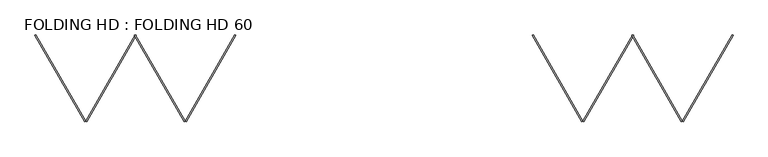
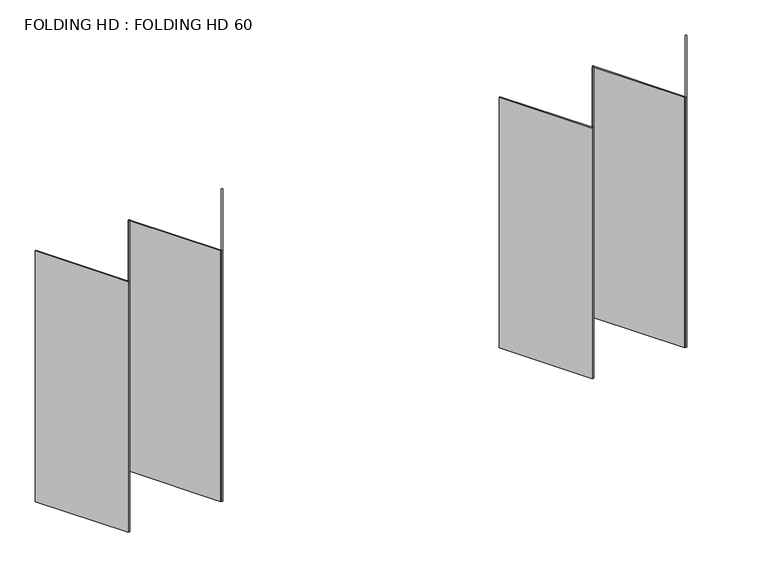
"""IFC4 building model written with IfcOpenShell, lengths in millimetres: plate geometry, FOLDING HD : FOLDING HD 60."""

from ifc_helpers import new_model, si_unit, origin, origin_with_axes, place, context, project, spatial, polyline, outline, extrude, source, transform, mapped, element, save


def folding_hd_folding_hd_60_29c1f600(model_context):
    return source(origin(), model_context, "Body", "SweptSolid", [
        extrude(outline(polyline([(2700.0, -779.4228635), (2691.339746, -784.4228635), (2241.339746, -5.0), (2250.0000001, 0.0), (2700.0, -779.4228635)])), origin_with_axes(), (0.0, 0.0, 1.0), 2570.0),
        extrude(outline(polyline([(2700.0, -779.4228634), (3150.0, 0.0), (3158.660254, -5.0), (2708.660254, -784.4228634), (2700.0, -779.4228634)])), origin_with_axes(), (0.0, 0.0, 1.0), 2570.0),
        extrude(outline(polyline([(1800.0, -779.4228634), (2250.0, 0.0), (2258.660254, -5.0), (1808.660254, -784.4228634), (1800.0, -779.4228634)])), origin_with_axes(), (0.0, 0.0, 1.0), 2570.0),
        extrude(outline(polyline([(1800.0, -779.4228634), (1791.339746, -784.4228634), (1341.339746, -5.0), (1350.0, 0.0), (1800.0, -779.4228634)])), origin_with_axes(), (0.0, 0.0, 1.0), 2570.0),
        extrude(outline(polyline([(-1800.0, -779.4228634), (-1808.660254, -784.4228634), (-2258.660254, -5.0), (-2250.0, 0.0), (-1800.0, -779.4228634)])), origin_with_axes(), (0.0, 0.0, 1.0), 2570.0),
        extrude(outline(polyline([(-1800.0, -779.4228634), (-1350.0, 0.0), (-1341.339746, -5.0), (-1791.339746, -784.4228634), (-1800.0, -779.4228634)])), origin_with_axes(), (0.0, 0.0, 1.0), 2570.0),
        extrude(outline(polyline([(-2700.0, -779.4228634), (-2250.0, 0.0), (-2241.339746, -5.0), (-2691.339746, -784.4228634), (-2700.0, -779.4228634)])), origin_with_axes(), (0.0, 0.0, 1.0), 2570.0),
        extrude(outline(polyline([(-2700.0, -779.4228634), (-2708.660254, -784.4228634), (-3158.660254, -5.0), (-3150.0, 0.0), (-2700.0, -779.4228634)])), origin_with_axes(), (0.0, 0.0, 1.0), 2570.0),
    ])


if __name__ == "__main__":
    model = new_model("IFC4")
    model_context = context("Model", 3, world=origin())
    ifc_project = project(units=[si_unit("LENGTHUNIT", "METRE", prefix="MILLI")], contexts=[model_context])
    site = spatial("IfcSite", under=ifc_project)
    building = spatial("IfcBuilding", under=site)
    placement = place(None, origin())
    folding_hd_folding_hd_60_shape = folding_hd_folding_hd_60_29c1f600(model_context)
    element("IfcPlate", 1, ObjectType="FOLDING HD : FOLDING HD 60", at=placement, inside=building, context=model_context, shape_type="MappedRepresentation", body=[
        mapped(folding_hd_folding_hd_60_shape, transform((0.0, 0.0, 0.0), x_axis=(1.0, 0.0, 0.0), y_axis=(0.0, 1.0, 0.0), z_axis=(0.0, 0.0, 1.0))),
    ])
    save(model, "model.ifc")
